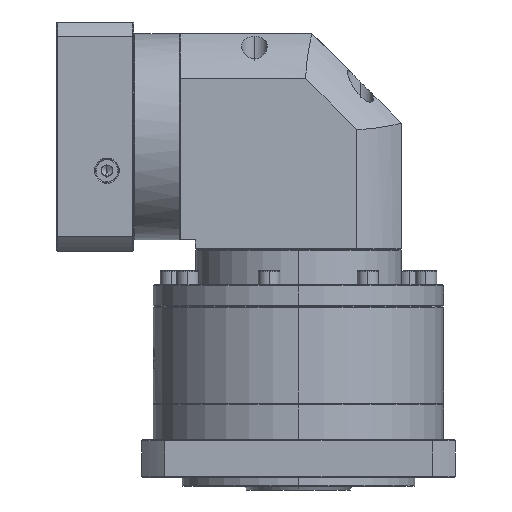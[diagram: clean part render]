
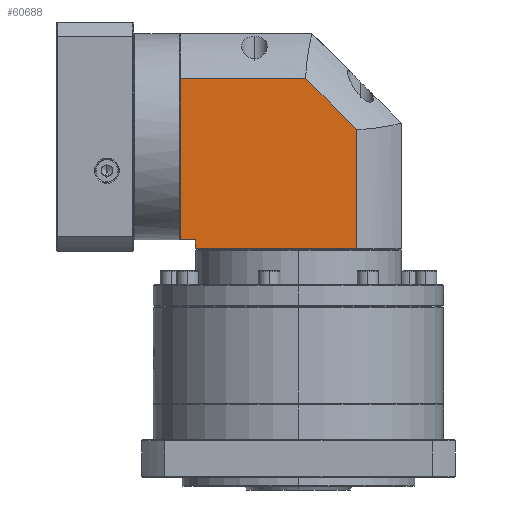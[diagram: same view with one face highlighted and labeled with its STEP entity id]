
A CAD part, left-side view. The second image highlights one B-rep face of the part: STEP entity #60688.
In plain terms, the highlighted planar face has unit normal (-1, 0, 0).
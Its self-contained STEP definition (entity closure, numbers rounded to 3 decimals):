
#3984 = CARTESIAN_POINT ( 'NONE',  ( -141.634, 80.122, -9.303 ) ) ;
#6445 = VERTEX_POINT ( 'NONE', #3984 ) ;
#7999 = DIRECTION ( 'NONE',  ( 0., 0., 1. ) ) ;
#12438 = VECTOR ( 'NONE', #54650, 1000. ) ;
#15106 = CARTESIAN_POINT ( 'NONE',  ( -141.634, 141.684, 15.797 ) ) ;
#17824 = VECTOR ( 'NONE', #125665, 1000. ) ;
#19443 = EDGE_CURVE ( 'NONE', #6445, #70277, #56473, .T. ) ;
#20961 = ORIENTED_EDGE ( 'NONE', *, *, #73470, .F. ) ;
#24847 = CARTESIAN_POINT ( 'NONE',  ( -141.634, 150.084, -9.303 ) ) ;
#26431 = VERTEX_POINT ( 'NONE', #59811 ) ;
#30674 = LINE ( 'NONE', #35063, #108399 ) ;
#34516 = EDGE_CURVE ( 'NONE', #63979, #6445, #96782, .T. ) ;
#35063 = CARTESIAN_POINT ( 'NONE',  ( -141.634, 141.684, -99.203 ) ) ;
#35408 = CARTESIAN_POINT ( 'NONE',  ( -141.634, 150.084, -99.203 ) ) ;
#35908 = LINE ( 'NONE', #48084, #123606 ) ;
#37531 = EDGE_CURVE ( 'NONE', #55769, #26431, #35908, .T. ) ;
#40703 = EDGE_LOOP ( 'NONE', ( #69277, #114499, #87098, #20961, #124068, #50158, #124633 ) ) ;
#42039 = EDGE_CURVE ( 'NONE', #70277, #55769, #126954, .T. ) ;
#48084 = CARTESIAN_POINT ( 'NONE',  ( -141.634, 26.684, -104.203 ) ) ;
#50158 = ORIENTED_EDGE ( 'NONE', *, *, #50574, .T. ) ;
#50574 = EDGE_CURVE ( 'NONE', #76457, #26431, #58806, .T. ) ;
#51514 = CARTESIAN_POINT ( 'NONE',  ( -141.634, 80.122, -9.303 ) ) ;
#51584 = VECTOR ( 'NONE', #7999, 1000. ) ;
#51687 = CARTESIAN_POINT ( 'NONE',  ( -141.634, 51.784, -110.703 ) ) ;
#54216 = DIRECTION ( 'NONE',  ( 0., -1., 0. ) ) ;
#54650 = DIRECTION ( 'NONE',  ( 0., -1., 0. ) ) ;
#55769 = VERTEX_POINT ( 'NONE', #132078 ) ;
#56473 = LINE ( 'NONE', #51514, #132622 ) ;
#58806 = LINE ( 'NONE', #15106, #121670 ) ;
#59811 = CARTESIAN_POINT ( 'NONE',  ( -141.634, 141.684, -104.203 ) ) ;
#60309 = VERTEX_POINT ( 'NONE', #35408 ) ;
#60688 = ADVANCED_FACE ( 'NONE', ( #95661 ), #106992, .F. ) ;
#63979 = VERTEX_POINT ( 'NONE', #24847 ) ;
#67757 = DIRECTION ( 'NONE',  ( 0., 0., -1. ) ) ;
#69277 = ORIENTED_EDGE ( 'NONE', *, *, #42039, .F. ) ;
#70277 = VERTEX_POINT ( 'NONE', #116837 ) ;
#71228 = CARTESIAN_POINT ( 'NONE',  ( -141.634, 150.084, -110.703 ) ) ;
#73470 = EDGE_CURVE ( 'NONE', #60309, #63979, #91276, .T. ) ;
#76457 = VERTEX_POINT ( 'NONE', #81877 ) ;
#81877 = CARTESIAN_POINT ( 'NONE',  ( -141.634, 141.684, -99.203 ) ) ;
#87098 = ORIENTED_EDGE ( 'NONE', *, *, #34516, .F. ) ;
#91276 = LINE ( 'NONE', #71228, #51584 ) ;
#95661 = FACE_OUTER_BOUND ( 'NONE', #40703, .T. ) ;
#96782 = LINE ( 'NONE', #105635, #12438 ) ;
#101216 = EDGE_CURVE ( 'NONE', #60309, #76457, #30674, .T. ) ;
#105635 = CARTESIAN_POINT ( 'NONE',  ( -141.634, 26.684, -9.303 ) ) ;
#106992 = PLANE ( 'NONE',  #136286 ) ;
#108399 = VECTOR ( 'NONE', #122903, 1000. ) ;
#114499 = ORIENTED_EDGE ( 'NONE', *, *, #19443, .F. ) ;
#116837 = CARTESIAN_POINT ( 'NONE',  ( -141.634, 51.784, -37.642 ) ) ;
#117122 = CARTESIAN_POINT ( 'NONE',  ( -141.634, 26.684, -110.703 ) ) ;
#118033 = DIRECTION ( 'NONE',  ( 1., 0., 0. ) ) ;
#121670 = VECTOR ( 'NONE', #67757, 1000. ) ;
#122059 = DIRECTION ( 'NONE',  ( 0., 1., 0. ) ) ;
#122903 = DIRECTION ( 'NONE',  ( 0., -1., 0. ) ) ;
#123606 = VECTOR ( 'NONE', #122059, 1000. ) ;
#124068 = ORIENTED_EDGE ( 'NONE', *, *, #101216, .T. ) ;
#124633 = ORIENTED_EDGE ( 'NONE', *, *, #37531, .F. ) ;
#125501 = DIRECTION ( 'NONE',  ( 0., -0.707, -0.707 ) ) ;
#125665 = DIRECTION ( 'NONE',  ( 0., 0., -1. ) ) ;
#126954 = LINE ( 'NONE', #51687, #17824 ) ;
#132078 = CARTESIAN_POINT ( 'NONE',  ( -141.634, 51.784, -104.203 ) ) ;
#132622 = VECTOR ( 'NONE', #125501, 1000. ) ;
#136286 = AXIS2_PLACEMENT_3D ( 'NONE', #117122, #118033, #54216 ) ;
